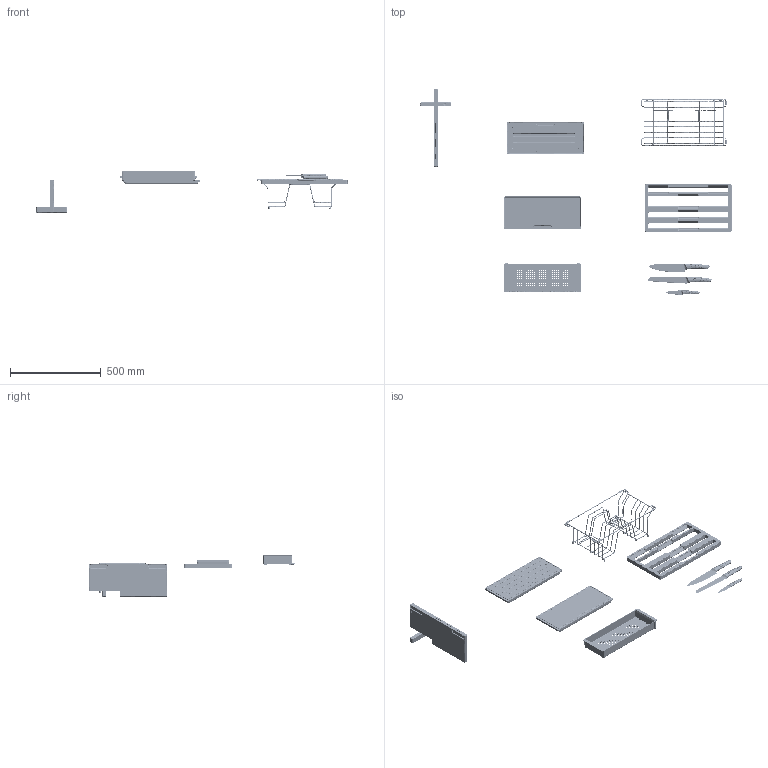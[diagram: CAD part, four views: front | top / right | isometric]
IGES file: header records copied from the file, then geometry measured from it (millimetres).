
Global section: file name: F:\_CONVERSIONE_CAD_2024_2025\PACCHETTI_2026\3D001_Sinks_Box Center_BWX 220-54-27 SBR\3D001_Sinks_Box Center_BWX 220-54-27 SBR.igs; native system: Rhinoceros ( May  6 2026 ); preprocessor: Trout Lake IGES 012 May  6 2026; date: 260630.125832; units: millimetre
Bounding box: 1715.65 x 1136.91 x 232.3 mm (x, y, z)
Surface area: 1703599.8 mm2 (no closed solid volume)
Topology: 0 solids, 0 shells, 12309 faces, 90835 edges, 90414 vertices
Faces by surface type: bspline 12309
